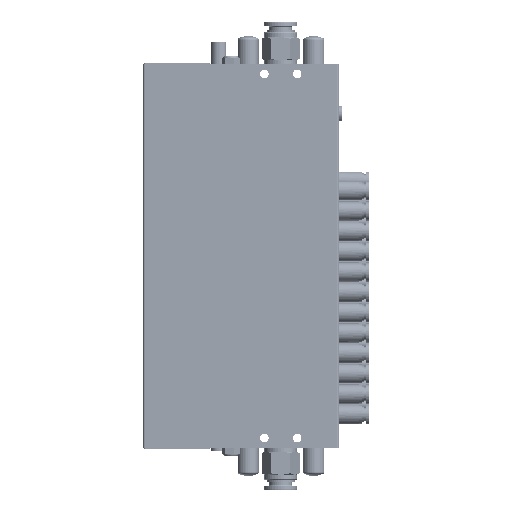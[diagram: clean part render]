
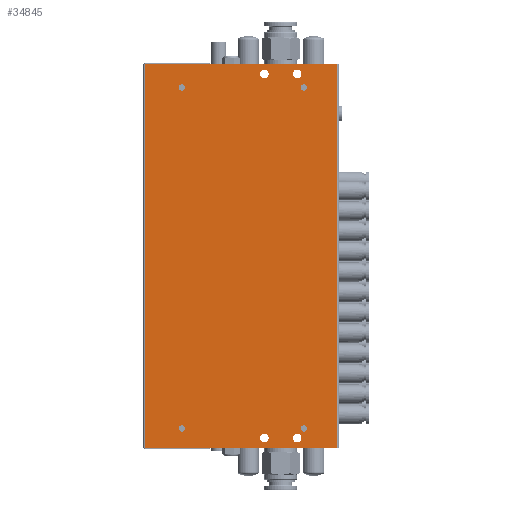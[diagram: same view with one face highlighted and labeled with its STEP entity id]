
A CAD part, front view. The second image highlights one B-rep face of the part: STEP entity #34845.
In plain terms, the highlighted planar face has unit normal (0, -1, 0).
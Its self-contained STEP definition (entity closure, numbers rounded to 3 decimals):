
#26037=FACE_BOUND('',#47351,.T.);
#26038=FACE_BOUND('',#47352,.T.);
#26039=FACE_BOUND('',#47353,.T.);
#26040=FACE_BOUND('',#47354,.T.);
#26041=FACE_BOUND('',#47355,.T.);
#26042=FACE_BOUND('',#47356,.T.);
#26043=FACE_BOUND('',#47357,.T.);
#26044=FACE_BOUND('',#47358,.T.);
#26045=FACE_BOUND('',#47359,.T.);
#29512=CIRCLE('',#114719,1.65);
#29513=CIRCLE('',#114721,1.65);
#29515=CIRCLE('',#114724,2.25);
#29516=CIRCLE('',#114726,2.25);
#29598=CIRCLE('',#114843,2.25);
#29599=CIRCLE('',#114844,2.25);
#29600=CIRCLE('',#114845,1.65);
#29601=CIRCLE('',#114846,1.65);
#34845=ADVANCED_FACE('',(#26037,#26038,#26039,#26040,#26041,#26042,#26043,
#26044,#26045),#39192,.T.);
#39192=PLANE('',#114847);
#47351=EDGE_LOOP('',(#60634,#60635,#60636,#60637));
#47352=EDGE_LOOP('',(#60638));
#47353=EDGE_LOOP('',(#60639));
#47354=EDGE_LOOP('',(#60640));
#47355=EDGE_LOOP('',(#60641));
#47356=EDGE_LOOP('',(#60642));
#47357=EDGE_LOOP('',(#60643));
#47358=EDGE_LOOP('',(#60644));
#47359=EDGE_LOOP('',(#60645));
#60634=ORIENTED_EDGE('',*,*,#88345,.T.);
#60635=ORIENTED_EDGE('',*,*,#88346,.T.);
#60636=ORIENTED_EDGE('',*,*,#88347,.T.);
#60637=ORIENTED_EDGE('',*,*,#88338,.F.);
#60638=ORIENTED_EDGE('',*,*,#88136,.F.);
#60639=ORIENTED_EDGE('',*,*,#88135,.F.);
#60640=ORIENTED_EDGE('',*,*,#88133,.F.);
#60641=ORIENTED_EDGE('',*,*,#88132,.T.);
#60642=ORIENTED_EDGE('',*,*,#88348,.F.);
#60643=ORIENTED_EDGE('',*,*,#88349,.F.);
#60644=ORIENTED_EDGE('',*,*,#88350,.F.);
#60645=ORIENTED_EDGE('',*,*,#88351,.T.);
#78773=VERTEX_POINT('',#162946);
#78774=VERTEX_POINT('',#162949);
#78776=VERTEX_POINT('',#162954);
#78777=VERTEX_POINT('',#162957);
#78948=VERTEX_POINT('',#164183);
#78949=VERTEX_POINT('',#164184);
#78954=VERTEX_POINT('',#164197);
#78955=VERTEX_POINT('',#164199);
#78956=VERTEX_POINT('',#164202);
#78957=VERTEX_POINT('',#164204);
#78958=VERTEX_POINT('',#164206);
#78959=VERTEX_POINT('',#164208);
#88132=EDGE_CURVE('',#78773,#78773,#29512,.T.);
#88133=EDGE_CURVE('',#78774,#78774,#29513,.T.);
#88135=EDGE_CURVE('',#78776,#78776,#29515,.T.);
#88136=EDGE_CURVE('',#78777,#78777,#29516,.T.);
#88338=EDGE_CURVE('',#78948,#78949,#98168,.T.);
#88345=EDGE_CURVE('',#78948,#78954,#98171,.T.);
#88346=EDGE_CURVE('',#78954,#78955,#98172,.T.);
#88347=EDGE_CURVE('',#78955,#78949,#98173,.T.);
#88348=EDGE_CURVE('',#78956,#78956,#29598,.T.);
#88349=EDGE_CURVE('',#78957,#78957,#29599,.T.);
#88350=EDGE_CURVE('',#78958,#78958,#29600,.T.);
#88351=EDGE_CURVE('',#78959,#78959,#29601,.T.);
#98168=LINE('',#164182,#104056);
#98171=LINE('',#164196,#104059);
#98172=LINE('',#164198,#104060);
#98173=LINE('',#164200,#104061);
#104056=VECTOR('',#131238,1.);
#104059=VECTOR('',#131251,1.);
#104060=VECTOR('',#131252,1.);
#104061=VECTOR('',#131253,1.);
#114719=AXIS2_PLACEMENT_3D('',#162945,#130889,#130890);
#114721=AXIS2_PLACEMENT_3D('',#162948,#130893,#130894);
#114724=AXIS2_PLACEMENT_3D('',#162953,#130899,#130900);
#114726=AXIS2_PLACEMENT_3D('',#162956,#130903,#130904);
#114843=AXIS2_PLACEMENT_3D('',#164201,#131254,#131255);
#114844=AXIS2_PLACEMENT_3D('',#164203,#131256,#131257);
#114845=AXIS2_PLACEMENT_3D('',#164205,#131258,#131259);
#114846=AXIS2_PLACEMENT_3D('',#164207,#131260,#131261);
#114847=AXIS2_PLACEMENT_3D('',#164209,#131262,#131263);
#130889=DIRECTION('',(0.,1.,0.));
#130890=DIRECTION('',(0.,0.,-1.));
#130893=DIRECTION('',(0.,-1.,0.));
#130894=DIRECTION('',(0.,0.,-1.));
#130899=DIRECTION('',(0.,-1.,0.));
#130900=DIRECTION('',(0.,0.,-1.));
#130903=DIRECTION('',(0.,-1.,0.));
#130904=DIRECTION('',(0.,0.,-1.));
#131238=DIRECTION('',(1.,0.,0.));
#131251=DIRECTION('',(0.,0.,-1.));
#131252=DIRECTION('',(1.,0.,0.));
#131253=DIRECTION('',(0.,0.,1.));
#131254=DIRECTION('',(0.,-1.,0.));
#131255=DIRECTION('',(0.,0.,-1.));
#131256=DIRECTION('',(0.,-1.,0.));
#131257=DIRECTION('',(0.,0.,-1.));
#131258=DIRECTION('',(0.,-1.,0.));
#131259=DIRECTION('',(0.,0.,-1.));
#131260=DIRECTION('',(0.,1.,0.));
#131261=DIRECTION('',(0.,0.,-1.));
#131262=DIRECTION('',(0.,-1.,0.));
#131263=DIRECTION('',(0.,0.,-1.));
#162945=CARTESIAN_POINT('',(-31.5,-23.,60.));
#162946=CARTESIAN_POINT('',(-31.5,-23.,58.35));
#162948=CARTESIAN_POINT('',(31.5,-23.,60.));
#162949=CARTESIAN_POINT('',(31.5,-23.,58.35));
#162953=CARTESIAN_POINT('',(11.,-23.,67.));
#162954=CARTESIAN_POINT('',(11.,-23.,64.75));
#162956=CARTESIAN_POINT('',(28.,-23.,67.));
#162957=CARTESIAN_POINT('',(28.,-23.,64.75));
#164182=CARTESIAN_POINT('',(52.5,-23.,72.));
#164183=CARTESIAN_POINT('',(-50.5,-23.,72.));
#164184=CARTESIAN_POINT('',(48.5,-23.,72.));
#164196=CARTESIAN_POINT('',(-50.5,-23.,-39.));
#164197=CARTESIAN_POINT('',(-50.5,-23.,-126.));
#164198=CARTESIAN_POINT('',(52.5,-23.,-126.));
#164199=CARTESIAN_POINT('',(48.5,-23.,-126.));
#164200=CARTESIAN_POINT('',(48.5,-23.,72.));
#164201=CARTESIAN_POINT('',(28.,-23.,-121.));
#164202=CARTESIAN_POINT('',(28.,-23.,-123.25));
#164203=CARTESIAN_POINT('',(11.,-23.,-121.));
#164204=CARTESIAN_POINT('',(11.,-23.,-123.25));
#164205=CARTESIAN_POINT('',(31.5,-23.,-116.));
#164206=CARTESIAN_POINT('',(31.5,-23.,-117.65));
#164207=CARTESIAN_POINT('',(-31.5,-23.,-116.));
#164208=CARTESIAN_POINT('',(-31.5,-23.,-117.65));
#164209=CARTESIAN_POINT('',(-52.5,-23.,-39.));
